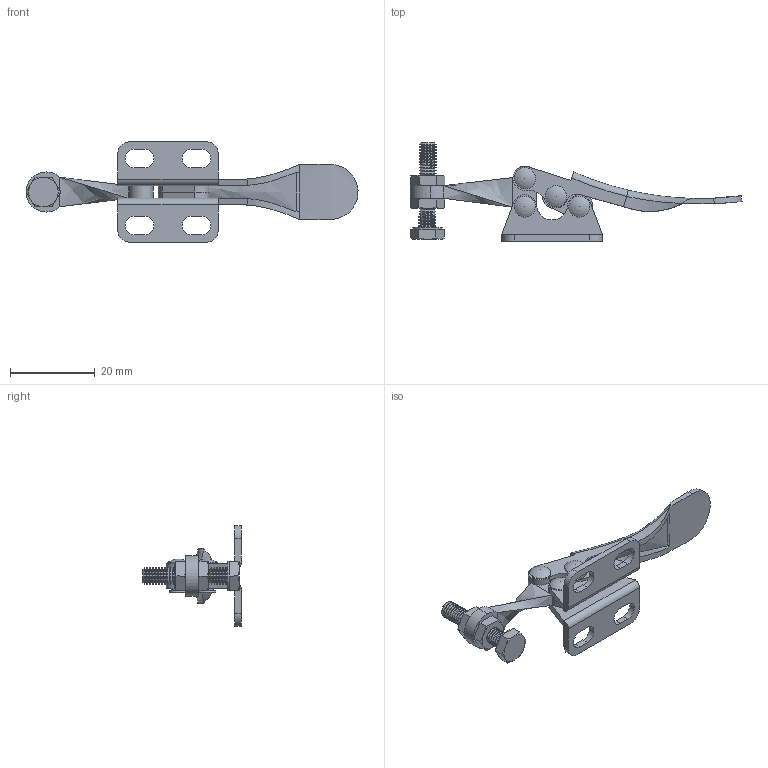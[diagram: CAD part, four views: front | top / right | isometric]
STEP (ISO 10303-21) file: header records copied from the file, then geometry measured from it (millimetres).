
FILE_DESCRIPTION (( 'STEP AP214' ), '1' );
FILE_NAME ('ISK-HH1500.STEP', '2015-07-02T11:29:10', ( '' ), ( '' ), 'SwSTEP 2.0', 'SolidWorks 2015', '' );
FILE_SCHEMA (( 'AUTOMOTIVE_DESIGN' ));
Length unit declared in the file: millimetre
Products named in the file (8): hexagon nut_3_jis_JIS B 1181 Hexagon nut - Class 3 Finished M4 --N; continuous thread hexagon head bolt_a_jis_JIS B 1180 Continuous thread hexagon head bolt A M4 x 20 --S; Revet_兂3亊6; Link; Handle; Arm; Base; ISK-HH1500
Assembly tree (12 placements, depth 2):
  ISK-HH1500
    Base
    Arm
    Handle
    Link  x2
    Revet_兂3亊6  x4
    continuous thread hexagon head bolt_a_jis_JIS B 1180 Continuous thread hexagon head bolt A M4 x 20 --S
    hexagon nut_3_jis_JIS B 1181 Hexagon nut - Class 3 Finished M4 --N  x2
Bounding box: 78.46 x 23.24 x 23.8 mm (x, y, z)
Volume: 3215.5 mm3; surface area: 5618.7 mm2
Topology: 13 solids, 13 shells, 451 faces, 1112 edges, 692 vertices
Faces by surface type: cylinder 162, cone 152, plane 101, torus 20, bspline 12, sphere 4
Entity records: 12561 total; most frequent: CARTESIAN_POINT 2884, DIRECTION 2113, ORIENTED_EDGE 1894, EDGE_CURVE 947, AXIS2_PLACEMENT_3D 859, VERTEX_POINT 590, CIRCLE 480, EDGE_LOOP 415
